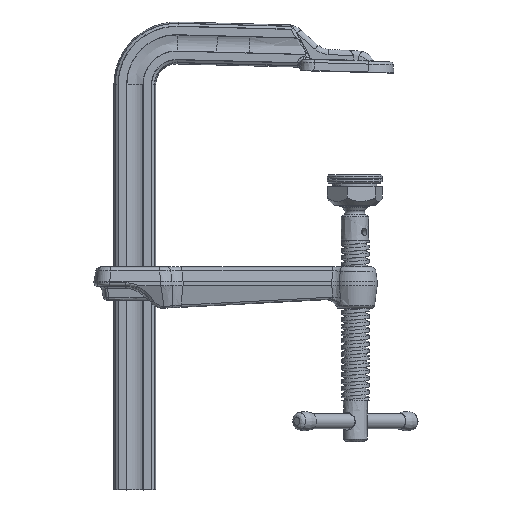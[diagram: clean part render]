
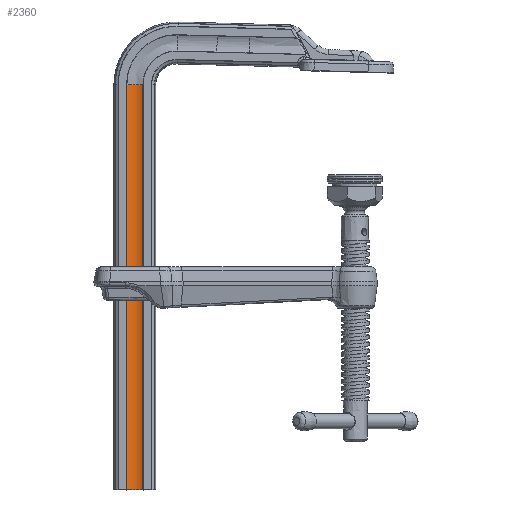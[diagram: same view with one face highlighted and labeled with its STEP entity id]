
A CAD part, front view. The second image highlights one B-rep face of the part: STEP entity #2360.
In plain terms, the highlighted free-form (B-spline) face has degree [1, 2] with [2, 3] control points.
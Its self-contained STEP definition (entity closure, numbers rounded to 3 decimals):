
#1808=CARTESIAN_POINT('',(-116.372,-7.383,-149.977));
#1809=VERTEX_POINT('',#1808);
#1817=CARTESIAN_POINT('',(-128.052,-7.383,-149.977));
#1818=VERTEX_POINT('',#1817);
#1819=CARTESIAN_POINT('',(-116.372,-7.383,-149.977));
#1820=CARTESIAN_POINT('',(-122.212,-4.44,-149.977));
#1821=CARTESIAN_POINT('',(-128.052,-7.383,-149.977));
#1822=(BOUNDED_CURVE()B_SPLINE_CURVE(2,(#1819,#1820,#1821),.CIRCULAR_ARC.,.F.,.U.)B_SPLINE_CURVE_WITH_KNOTS((3,3),(0.,1.),.UNSPECIFIED.)CURVE()GEOMETRIC_REPRESENTATION_ITEM()RATIONAL_B_SPLINE_CURVE((0.859,0.827,0.998))REPRESENTATION_ITEM(''));
#1823=EDGE_CURVE('',#1809,#1818,#1822,.T.);
#2317=CARTESIAN_POINT('',(-116.372,-7.383,144.423));
#2318=VERTEX_POINT('',#2317);
#2325=CARTESIAN_POINT('',(-116.372,-7.383,-149.977));
#2326=CARTESIAN_POINT('',(-116.372,-7.383,-126.377));
#2327=CARTESIAN_POINT('',(-116.372,-7.383,-53.337));
#2328=CARTESIAN_POINT('',(-116.372,-7.383,70.263));
#2329=CARTESIAN_POINT('',(-116.372,-7.383,144.423));
#2330=B_SPLINE_CURVE_WITH_KNOTS('',2,(#2325,#2326,#2327,#2328,#2329),.UNSPECIFIED.,.F.,.U.,(3,1,1,3),(0.505,0.584,0.75,1.),.UNSPECIFIED.);
#2331=EDGE_CURVE('',#1809,#2318,#2330,.T.);
#2336=CARTESIAN_POINT('',(-128.052,-7.383,144.423));
#2337=CARTESIAN_POINT('',(-122.212,-4.44,144.423));
#2338=CARTESIAN_POINT('',(-116.372,-7.383,144.423));
#2339=CARTESIAN_POINT('',(-128.052,-7.383,-649.977));
#2340=CARTESIAN_POINT('',(-122.212,-4.44,-649.977));
#2341=CARTESIAN_POINT('',(-116.372,-7.383,-649.977));
#2342=(BOUNDED_SURFACE()B_SPLINE_SURFACE(1,2,((#2336,#2337,#2338),(#2339,#2340,#2341)),.CYLINDRICAL_SURF.,.F.,.F.,.U.)B_SPLINE_SURFACE_WITH_KNOTS((2,2),(3,3),(0.,1.607),(0.001,0.148),.UNSPECIFIED.)GEOMETRIC_REPRESENTATION_ITEM()RATIONAL_B_SPLINE_SURFACE(((0.998,0.827,0.859),(0.998,0.827,0.859)))REPRESENTATION_ITEM('')SURFACE());
#2343=CARTESIAN_POINT('',(-128.052,-7.383,144.423));
#2344=VERTEX_POINT('',#2343);
#2345=CARTESIAN_POINT('',(-116.372,-7.383,144.423));
#2346=CARTESIAN_POINT('',(-122.212,-4.44,144.423));
#2347=CARTESIAN_POINT('',(-128.052,-7.383,144.423));
#2348=(BOUNDED_CURVE()B_SPLINE_CURVE(2,(#2345,#2346,#2347),.CIRCULAR_ARC.,.F.,.U.)B_SPLINE_CURVE_WITH_KNOTS((3,3),(0.001,0.148),.UNSPECIFIED.)CURVE()GEOMETRIC_REPRESENTATION_ITEM()RATIONAL_B_SPLINE_CURVE((0.859,0.827,0.998))REPRESENTATION_ITEM(''));
#2349=EDGE_CURVE('',#2318,#2344,#2348,.T.);
#2350=ORIENTED_EDGE('',*,*,#2349,.T.);
#2351=CARTESIAN_POINT('',(-128.052,-7.383,144.423));
#2352=CARTESIAN_POINT('',(-128.052,-7.383,-149.977));
#2353=(BOUNDED_CURVE()B_SPLINE_CURVE(1,(#2351,#2352),.POLYLINE_FORM.,.F.,.U.)B_SPLINE_CURVE_WITH_KNOTS((2,2),(0.,0.495),.UNSPECIFIED.)CURVE()GEOMETRIC_REPRESENTATION_ITEM()RATIONAL_B_SPLINE_CURVE((0.998,0.998))REPRESENTATION_ITEM(''));
#2354=EDGE_CURVE('',#2344,#1818,#2353,.T.);
#2355=ORIENTED_EDGE('',*,*,#2354,.T.);
#2356=ORIENTED_EDGE('',*,*,#1823,.F.);
#2357=ORIENTED_EDGE('',*,*,#2331,.T.);
#2358=EDGE_LOOP('',(#2350,#2355,#2356,#2357));
#2359=FACE_OUTER_BOUND('',#2358,.T.);
#2360=ADVANCED_FACE('',(#2359),#2342,.T.);
